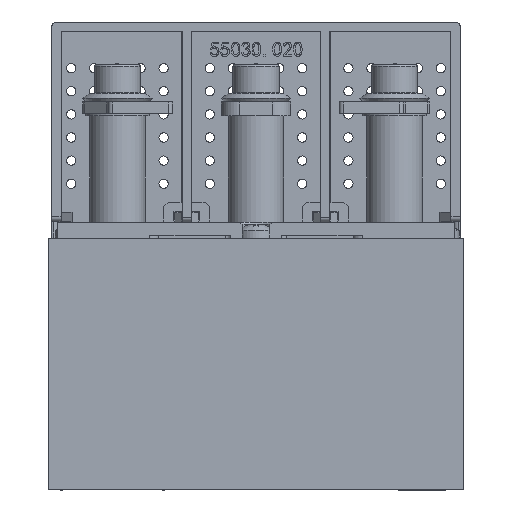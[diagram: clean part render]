
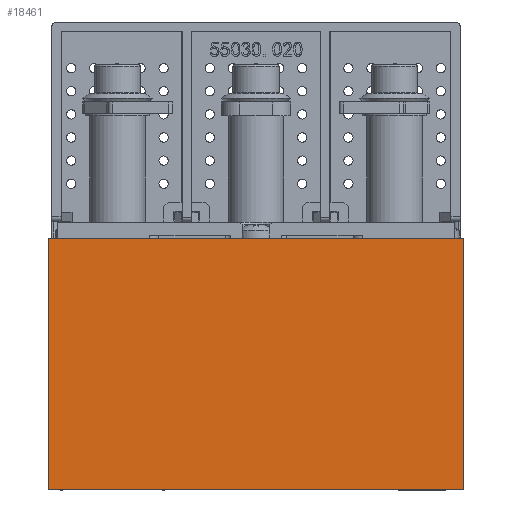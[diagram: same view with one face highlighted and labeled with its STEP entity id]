
A CAD part, left-side view. The second image highlights one B-rep face of the part: STEP entity #18461.
In plain terms, the highlighted planar face has unit normal (-1, 0, 0).
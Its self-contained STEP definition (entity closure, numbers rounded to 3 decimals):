
#1969 = DIRECTION ( 'NONE',  ( 0., 0., -1. ) ) ;
#6702 = CARTESIAN_POINT ( 'NONE',  ( -124.11, 0., 220.35 ) ) ;
#9155 = CARTESIAN_POINT ( 'NONE',  ( -124.11, -39.537, 165.85 ) ) ;
#10994 = DIRECTION ( 'NONE',  ( 0., -1., 0. ) ) ;
#13563 = EDGE_CURVE ( 'NONE', #55313, #73432, #73131, .T. ) ;
#16934 = ORIENTED_EDGE ( 'NONE', *, *, #13563, .F. ) ;
#18461 = ADVANCED_FACE ( 'NONE', ( #50297 ), #28805, .T. ) ;
#24736 = EDGE_CURVE ( 'NONE', #73432, #63382, #60045, .T. ) ;
#28805 = PLANE ( 'NONE',  #61682 ) ;
#29133 = EDGE_CURVE ( 'NONE', #55313, #71507, #82906, .T. ) ;
#31405 = EDGE_CURVE ( 'NONE', #71507, #63382, #91646, .T. ) ;
#37823 = ORIENTED_EDGE ( 'NONE', *, *, #24736, .F. ) ;
#43016 = CARTESIAN_POINT ( 'NONE',  ( -124.11, -39.537, 220.35 ) ) ;
#43931 = VECTOR ( 'NONE', #84924, 1000. ) ;
#44209 = VECTOR ( 'NONE', #1969, 1000. ) ;
#45310 = DIRECTION ( 'NONE',  ( 0., 0., -1. ) ) ;
#50297 = FACE_OUTER_BOUND ( 'NONE', #69723, .T. ) ;
#51471 = VECTOR ( 'NONE', #45310, 1000. ) ;
#51629 = CARTESIAN_POINT ( 'NONE',  ( -124.11, 50.463, 165.85 ) ) ;
#52017 = ORIENTED_EDGE ( 'NONE', *, *, #31405, .T. ) ;
#53763 = CARTESIAN_POINT ( 'NONE',  ( -124.11, -39.537, 165.85 ) ) ;
#55313 = VERTEX_POINT ( 'NONE', #59946 ) ;
#56767 = DIRECTION ( 'NONE',  ( -1., 0., 0. ) ) ;
#59946 = CARTESIAN_POINT ( 'NONE',  ( -124.11, 50.463, 220.35 ) ) ;
#60045 = LINE ( 'NONE', #9155, #44209 ) ;
#61682 = AXIS2_PLACEMENT_3D ( 'NONE', #71535, #56767, #71239 ) ;
#63382 = VERTEX_POINT ( 'NONE', #53763 ) ;
#63484 = ORIENTED_EDGE ( 'NONE', *, *, #29133, .T. ) ;
#69723 = EDGE_LOOP ( 'NONE', ( #16934, #63484, #52017, #37823 ) ) ;
#70238 = VECTOR ( 'NONE', #10994, 1000. ) ;
#71239 = DIRECTION ( 'NONE',  ( 0., 0., 1. ) ) ;
#71507 = VERTEX_POINT ( 'NONE', #86508 ) ;
#71535 = CARTESIAN_POINT ( 'NONE',  ( -124.11, 50.463, 165.85 ) ) ;
#73131 = LINE ( 'NONE', #6702, #43931 ) ;
#73432 = VERTEX_POINT ( 'NONE', #43016 ) ;
#82590 = CARTESIAN_POINT ( 'NONE',  ( -124.11, 50.463, 165.85 ) ) ;
#82906 = LINE ( 'NONE', #51629, #51471 ) ;
#84924 = DIRECTION ( 'NONE',  ( 0., -1., 0. ) ) ;
#86508 = CARTESIAN_POINT ( 'NONE',  ( -124.11, 50.463, 165.85 ) ) ;
#91646 = LINE ( 'NONE', #82590, #70238 ) ;
